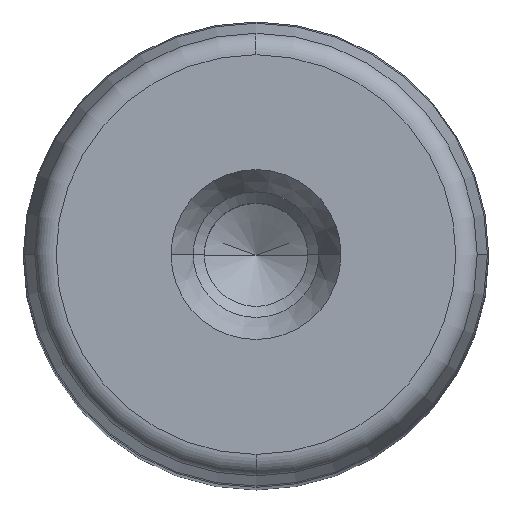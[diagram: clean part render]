
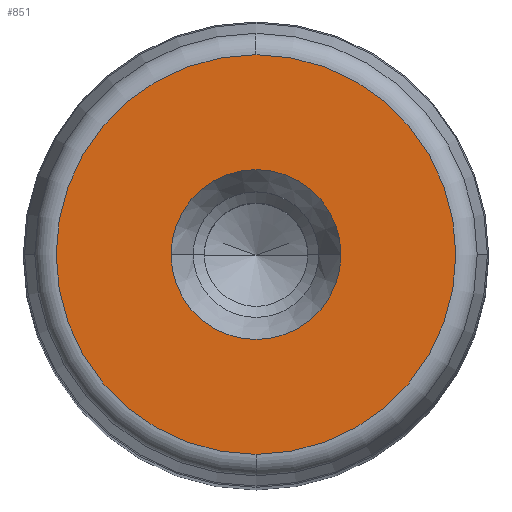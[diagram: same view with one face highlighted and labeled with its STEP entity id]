
A CAD part, top view. The second image highlights one B-rep face of the part: STEP entity #851.
In plain terms, the highlighted planar face has unit normal (0, 0, 1) as drawn and (0, 1, 0) by its records, which use the part's own axes.
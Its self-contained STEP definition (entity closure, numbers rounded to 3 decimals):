
#281=CARTESIAN_POINT('',(11.5,220.0,0.0));
#282=VERTEX_POINT('',#281);
#289=CARTESIAN_POINT('',(-11.5,220.0,0.));
#290=VERTEX_POINT('',#289);
#291=CARTESIAN_POINT('',(0.0,220.0,0.0));
#292=DIRECTION('',(0.0,1.0,0.0));
#293=DIRECTION('',(1.0,0.0,0.0));
#294=AXIS2_PLACEMENT_3D('',#291,#292,#293);
#295=CIRCLE('',#294,11.5);
#296=EDGE_CURVE('',#282,#290,#295,.T.);
#313=CARTESIAN_POINT('',(0.0,220.0,27.054));
#314=VERTEX_POINT('',#313);
#324=CARTESIAN_POINT('',(0.,220.0,-27.054));
#325=VERTEX_POINT('',#324);
#326=CARTESIAN_POINT('',(0.0,220.0,0.0));
#327=DIRECTION('',(0.0,1.0,0.0));
#328=DIRECTION('',(1.0,0.0,0.0));
#329=AXIS2_PLACEMENT_3D('',#326,#327,#328);
#330=CIRCLE('',#329,27.054);
#331=EDGE_CURVE('',#325,#314,#330,.T.);
#812=CARTESIAN_POINT('',(27.054,220.0,0.0));
#813=VERTEX_POINT('',#812);
#814=CARTESIAN_POINT('',(0.0,220.0,0.0));
#815=DIRECTION('',(0.0,1.0,0.0));
#816=DIRECTION('',(1.0,0.0,0.0));
#817=AXIS2_PLACEMENT_3D('',#814,#815,#816);
#818=CIRCLE('',#817,27.054);
#819=EDGE_CURVE('',#813,#325,#818,.T.);
#821=CARTESIAN_POINT('',(0.0,220.0,0.0));
#822=DIRECTION('',(0.0,1.0,0.0));
#823=DIRECTION('',(1.0,0.0,0.0));
#824=AXIS2_PLACEMENT_3D('',#821,#822,#823);
#825=CIRCLE('',#824,27.054);
#826=EDGE_CURVE('',#314,#813,#825,.T.);
#831=CARTESIAN_POINT('',(-29.76,220.0,-29.76));
#832=DIRECTION('',(0.0,1.0,0.0));
#833=DIRECTION('',(0.0,0.0,1.0));
#834=AXIS2_PLACEMENT_3D('',#831,#832,#833);
#835=PLANE('',#834);
#836=ORIENTED_EDGE('',*,*,#819,.T.);
#837=ORIENTED_EDGE('',*,*,#331,.T.);
#838=ORIENTED_EDGE('',*,*,#826,.T.);
#839=EDGE_LOOP('',(#836,#837,#838));
#840=FACE_OUTER_BOUND('',#839,.T.);
#841=ORIENTED_EDGE('',*,*,#296,.F.);
#842=CARTESIAN_POINT('',(0.0,220.0,0.0));
#843=DIRECTION('',(0.0,1.0,0.0));
#844=DIRECTION('',(1.0,0.0,0.0));
#845=AXIS2_PLACEMENT_3D('',#842,#843,#844);
#846=CIRCLE('',#845,11.5);
#847=EDGE_CURVE('',#290,#282,#846,.T.);
#848=ORIENTED_EDGE('',*,*,#847,.F.);
#849=EDGE_LOOP('',(#841,#848));
#850=FACE_BOUND('',#849,.T.);
#851=ADVANCED_FACE('',(#840,#850),#835,.T.);
